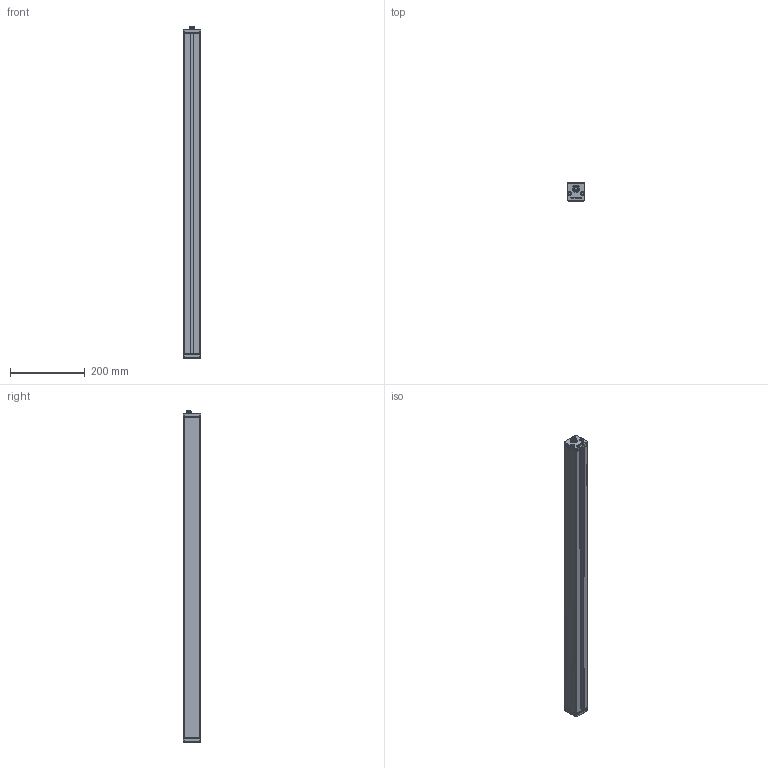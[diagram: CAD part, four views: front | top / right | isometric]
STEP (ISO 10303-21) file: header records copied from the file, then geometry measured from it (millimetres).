
FILE_DESCRIPTION (( 'STEP AP214' ), '1' );
FILE_NAME ('BARMIC12.STEP', '2012-02-17T15:01:58', ( ' ' ), ( '' ), 'SwSTEP 2.0', 'SolidWorks 2009', '' );
FILE_SCHEMA (( 'AUTOMOTIVE_DESIGN' ));
Length unit declared in the file: millimetre
Products named in the file (1): BARMIC12
Bounding box: 47 x 47 x 889.1 mm (x, y, z)
Volume: 450796.4 mm3; surface area: 441075.2 mm2
Topology: 1 solids, 3 shells, 606 faces, 1606 edges, 1035 vertices
Faces by surface type: plane 316, cylinder 158, bspline 66, torus 38, cone 20, sphere 8
Entity records: 34388 total; most frequent: CARTESIAN_POINT 12906, ORIENTED_EDGE 3180, DIRECTION 2914, EDGE_CURVE 1590, VERTEX_POINT 1027, VECTOR 984, LINE 984, AXIS2_PLACEMENT_3D 965
